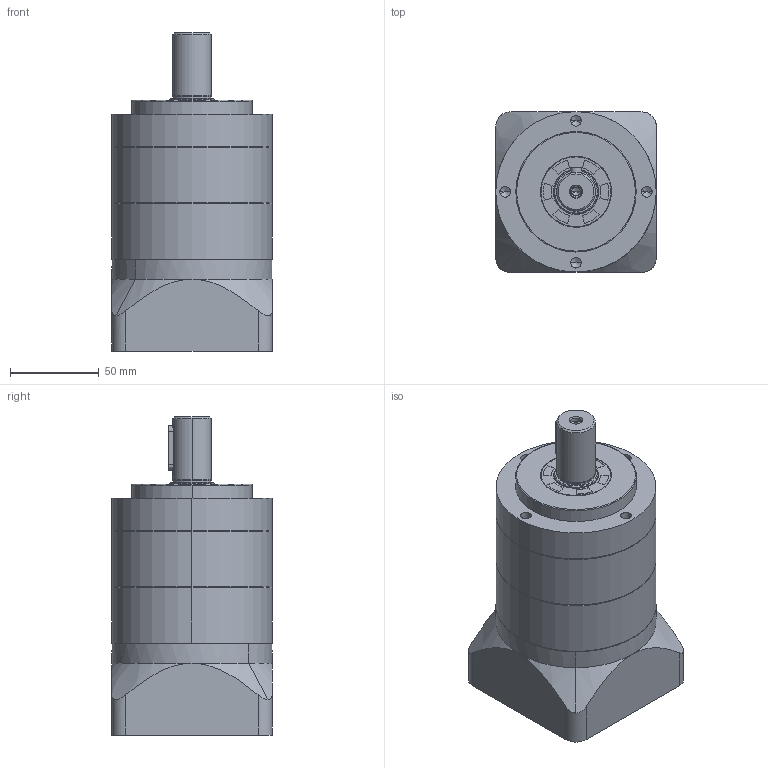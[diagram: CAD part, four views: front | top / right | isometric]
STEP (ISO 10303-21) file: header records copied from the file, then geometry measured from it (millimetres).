
FILE_DESCRIPTION (( 'STEP AP203' ), '1' );
FILE_NAME ('NA90-L2(19-70-90-M6).STEP', '2022-03-11T18:39:01', ( '' ), ( '' ), 'SwSTEP 2.0', 'SolidWorks 2016', '' );
FILE_SCHEMA (( 'CONFIG_CONTROL_DESIGN' ));
Length unit declared in the file: millimetre
Products named in the file (8): SN90-(19); NA90-(68x8-80-M6); SN90-(22x37-6x25); NA90-L2(19-70-90-M6); SN90-48x27x15-M6; SN90-(70-90-M6); SN90; SN90-25x40x5
Assembly tree (8 placements, depth 2):
  NA90-L2(19-70-90-M6)
    NA90-(68x8-80-M6)
    SN90-25x40x5
    SN90-(22x37-6x25)
    SN90  x2
    SN90-(70-90-M6)
    SN90-(19)
    SN90-48x27x15-M6
Bounding box: 90.5 x 90.5 x 179.5 mm (x, y, z)
Volume: 869042.7 mm3; surface area: 152028.2 mm2
Topology: 10 solids, 10 shells, 467 faces, 1182 edges, 742 vertices
Faces by surface type: cylinder 252, plane 101, cone 73, bspline 35, torus 6
Entity records: 31606 total; most frequent: CARTESIAN_POINT 20673, ORIENTED_EDGE 2204, DIRECTION 2018, EDGE_CURVE 1102, AXIS2_PLACEMENT_3D 790, VERTEX_POINT 710, EDGE_LOOP 518, FACE_OUTER_BOUND 447
